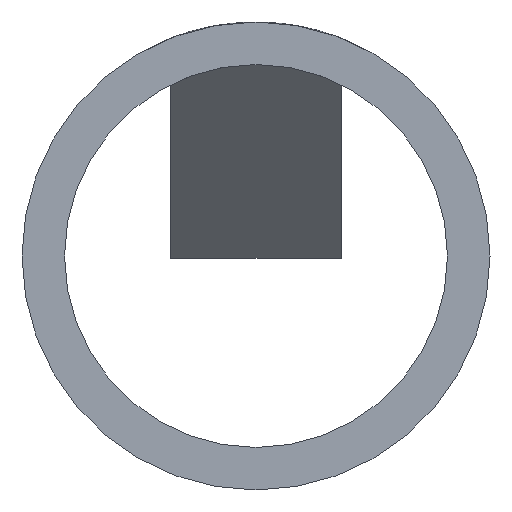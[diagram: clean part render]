
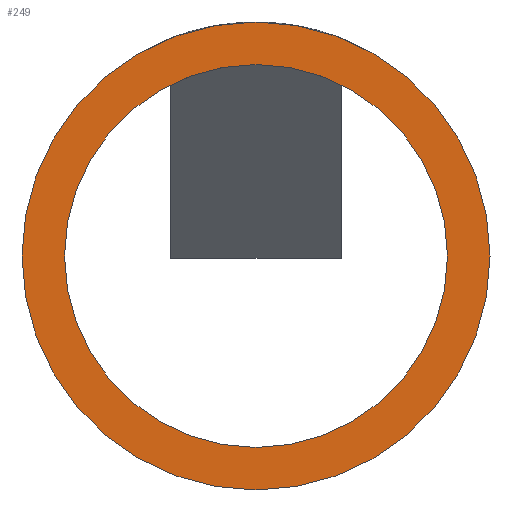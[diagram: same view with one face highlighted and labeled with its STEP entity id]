
A CAD part, front view. The second image highlights one B-rep face of the part: STEP entity #249.
In plain terms, the highlighted planar face has unit normal (0, -1, 0).
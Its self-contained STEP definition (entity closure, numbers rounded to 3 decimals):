
#12 = EDGE_LOOP ( 'NONE', ( #49, #50 ) ) ;
#17 = EDGE_LOOP ( 'NONE', ( #51, #52 ) ) ;
#49 = ORIENTED_EDGE ( 'NONE', *, *, #209, .T. ) ;
#50 = ORIENTED_EDGE ( 'NONE', *, *, #187, .T. ) ;
#51 = ORIENTED_EDGE ( 'NONE', *, *, #212, .F. ) ;
#52 = ORIENTED_EDGE ( 'NONE', *, *, #217, .F. ) ;
#109 = FACE_OUTER_BOUND ( 'NONE', #12, .T. ) ;
#111 = FACE_BOUND ( 'NONE', #17, .T. ) ;
#132 = CARTESIAN_POINT ( 'NONE',  ( -5.5, 0., 0. ) ) ;
#139 = CARTESIAN_POINT ( 'NONE',  ( 5.5, 0., 0. ) ) ;
#145 = CARTESIAN_POINT ( 'NONE',  ( 4.5, 0., 0. ) ) ;
#155 = CARTESIAN_POINT ( 'NONE',  ( -4.5, 0., 0. ) ) ;
#174 = AXIS2_PLACEMENT_3D ( 'NONE', #406, #387, #386 ) ;
#176 = AXIS2_PLACEMENT_3D ( 'NONE', #446, #445, #444 ) ;
#187 = EDGE_CURVE ( 'NONE', #343, #490, #289, .T. ) ;
#192 = AXIS2_PLACEMENT_3D ( 'NONE', #426, #395, #394 ) ;
#199 = AXIS2_PLACEMENT_3D ( 'NONE', #422, #405, #404 ) ;
#209 = EDGE_CURVE ( 'NONE', #490, #343, #268, .T. ) ;
#212 = EDGE_CURVE ( 'NONE', #403, #393, #273, .T. ) ;
#217 = EDGE_CURVE ( 'NONE', #393, #403, #272, .T. ) ;
#234 = AXIS2_PLACEMENT_3D ( 'NONE', #359, #348, #347 ) ;
#249 = ADVANCED_FACE ( 'NONE', ( #109, #111 ), #349, .T. ) ;
#268 = CIRCLE ( 'NONE', #199, 5.5 ) ;
#272 = CIRCLE ( 'NONE', #174, 4.5 ) ;
#273 = CIRCLE ( 'NONE', #192, 4.5 ) ;
#289 = CIRCLE ( 'NONE', #176, 5.5 ) ;
#343 = VERTEX_POINT ( 'NONE', #132 ) ;
#347 = DIRECTION ( 'NONE',  ( -1., 0., 0. ) ) ;
#348 = DIRECTION ( 'NONE',  ( 0., -1., 0. ) ) ;
#349 = PLANE ( 'NONE',  #234 ) ;
#359 = CARTESIAN_POINT ( 'NONE',  ( 0., 0., 0. ) ) ;
#386 = DIRECTION ( 'NONE',  ( -1., 0., 0. ) ) ;
#387 = DIRECTION ( 'NONE',  ( 0., -1., 0. ) ) ;
#393 = VERTEX_POINT ( 'NONE', #155 ) ;
#394 = DIRECTION ( 'NONE',  ( -1., 0., 0. ) ) ;
#395 = DIRECTION ( 'NONE',  ( 0., -1., 0. ) ) ;
#403 = VERTEX_POINT ( 'NONE', #145 ) ;
#404 = DIRECTION ( 'NONE',  ( -1., 0., 0. ) ) ;
#405 = DIRECTION ( 'NONE',  ( 0., -1., 0. ) ) ;
#406 = CARTESIAN_POINT ( 'NONE',  ( 0., 0., 0. ) ) ;
#422 = CARTESIAN_POINT ( 'NONE',  ( 0., 0., 0. ) ) ;
#426 = CARTESIAN_POINT ( 'NONE',  ( 0., 0., 0. ) ) ;
#444 = DIRECTION ( 'NONE',  ( -1., 0., 0. ) ) ;
#445 = DIRECTION ( 'NONE',  ( 0., -1., 0. ) ) ;
#446 = CARTESIAN_POINT ( 'NONE',  ( 0., 0., 0. ) ) ;
#490 = VERTEX_POINT ( 'NONE', #139 ) ;
